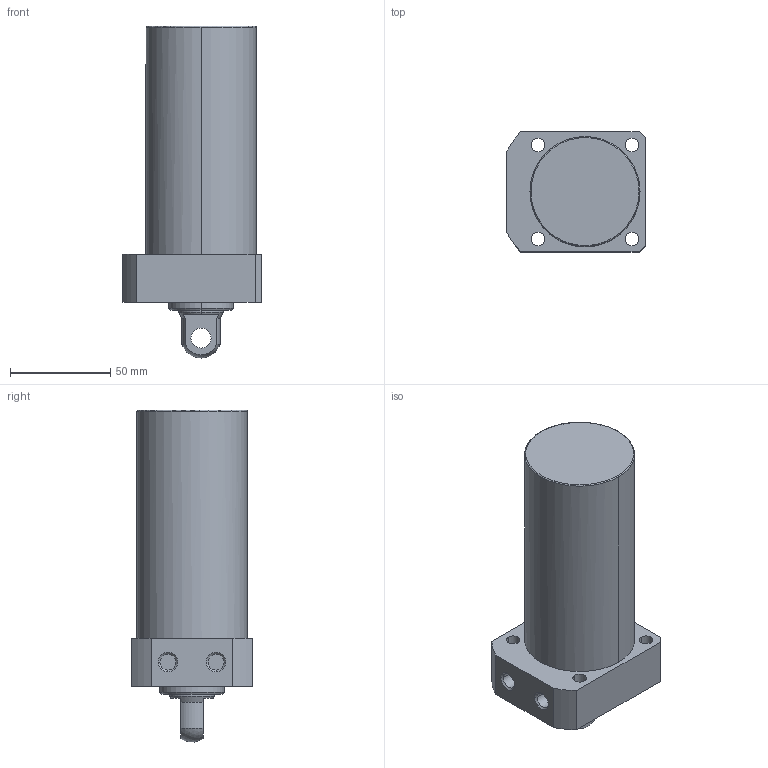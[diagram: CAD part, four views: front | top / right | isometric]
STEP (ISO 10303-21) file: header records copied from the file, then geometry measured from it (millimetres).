
FILE_DESCRIPTION((' '),'2;1');
FILE_NAME( 'TLLR-055CP-085.STEP.stp', '2025-10-24T16:34:51', (' '), ('--- Datakit www.datakit.com---'), ' Datakit CrossCadWare V2024.1 Dec 21 2023', 'Mastercam 2025', ' ');
FILE_SCHEMA(('AUTOMOTIVE_DESIGN { 1 0 10303 214 1 1 1 1 }'));
Length unit declared in the file: millimetre
Products named in the file (1): TLLR-055CP-085
Bounding box: 69 x 60 x 165.93 mm (x, y, z)
Volume: 370368.4 mm3; surface area: 37915.9 mm2
Topology: 1 solids, 1 shells, 57 faces, 164 edges, 116 vertices
Faces by surface type: cylinder 28, plane 18, cone 8, torus 2, sphere 1
Entity records: 2006 total; most frequent: DIRECTION 378, CARTESIAN_POINT 350, ORIENTED_EDGE 328, EDGE_CURVE 164, AXIS2_PLACEMENT_3D 160, VERTEX_POINT 116, CIRCLE 102, EDGE_LOOP 74
